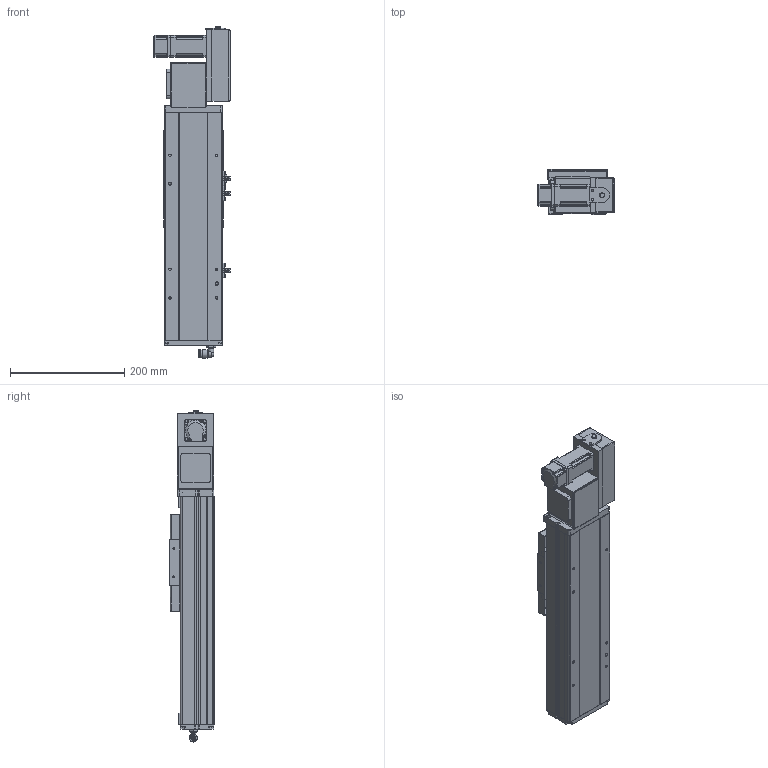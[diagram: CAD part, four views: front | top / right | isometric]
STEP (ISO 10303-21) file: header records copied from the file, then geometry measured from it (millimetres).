
FILE_DESCRIPTION (( 'STEP AP214' ), '1' );
FILE_NAME ('TPE10-L32-150-R-T10-C4.STEP', '2023-03-13T07:39:47', ( '' ), ( '' ), 'SwSTEP 2.0', 'SolidWorks 2020', '' );
FILE_SCHEMA (( 'AUTOMOTIVE_DESIGN' ));
Length unit declared in the file: millimetre
Products named in the file (15): 葩璃 TPE10-L-002 耜裔ZTMT-102B-04^TPE10-L32-R-T10-C4; TPE10-L32-150-R-T10-C4; 葩璃 TPE10-007 々湍釱MZ-169x88^TPE10-L32-R-T10-C4; 葩璃 侂狟100W^TPE10-L32-R-T10-C4; 葩璃 TPE10 賑雄殤 TPE10^TPE10-L32-R-T10-C4; hexagon head bolts-full thread gb_GB_FASTENER_BOLT_STBAB A M5X16-N; 葩璃 TPE10-L-001 菁釱MZ-102A-01^TPE10-L32-R-T10-C4; hexagon socket head cap screws gb_GB_FASTENER_SCREWS_HSHCS M3X6-N; 葩璃 TPF10 詩湍揤啣 TPF10 12^TPE10-L32-R-T10-C4; 葩璃 pm-t65-672^TPE10-L32-R-T10-C4; 葩璃 詩湍75^TPE10-L32-R-T10-C4; 葩璃 TPT10-L-009 萇儂啣^TPE10-L32-R-T10-C4_100W; 葩璃 PL8-02^TPE10-L32-R-T10-C4; hex nuts, style 1-grades ab gb_GB_FASTENER_NUT_SNAB1 M3-N; 葩璃 TPF10-L-008 耜醱啣^TPE10-L32-R-T10-C4
Assembly tree (28 placements, depth 2):
  TPE10-L32-150-R-T10-C4
    葩璃 TPE10-L-001 菁釱MZ-102A-01^TPE10-L32-R-T10-C4
    葩璃 TPE10-L-002 耜裔ZTMT-102B-04^TPE10-L32-R-T10-C4  x2
    葩璃 詩湍75^TPE10-L32-R-T10-C4
    葩璃 TPE10-007 々湍釱MZ-169x88^TPE10-L32-R-T10-C4
    葩璃 TPF10-L-008 耜醱啣^TPE10-L32-R-T10-C4
    葩璃 TPE10 賑雄殤 TPE10^TPE10-L32-R-T10-C4
    葩璃 TPF10 詩湍揤啣 TPF10 12^TPE10-L32-R-T10-C4  x2
    葩璃 TPT10-L-009 萇儂啣^TPE10-L32-R-T10-C4_100W
    葩璃 pm-t65-672^TPE10-L32-R-T10-C4  x3
    葩璃 PL8-02^TPE10-L32-R-T10-C4
    葩璃 侂狟100W^TPE10-L32-R-T10-C4
    hexagon socket head cap screws gb_GB_FASTENER_SCREWS_HSHCS M3X6-N  x6
    hex nuts, style 1-grades ab gb_GB_FASTENER_NUT_SNAB1 M3-N  x6
    hexagon head bolts-full thread gb_GB_FASTENER_BOLT_STBAB A M5X16-N
Bounding box: 134.23 x 78.5 x 582 mm (x, y, z)
Volume: 1798972.7 mm3; surface area: 536798.6 mm2
Topology: 36 solids, 36 shells, 1588 faces, 4046 edges, 2564 vertices
Faces by surface type: plane 899, cylinder 473, cone 164, torus 26, bspline 24, sphere 2
Entity records: 36752 total; most frequent: CARTESIAN_POINT 7749, DIRECTION 5756, ORIENTED_EDGE 5584, EDGE_CURVE 2792, AXIS2_PLACEMENT_3D 2021, VERTEX_POINT 1791, LINE 1714, VECTOR 1714
